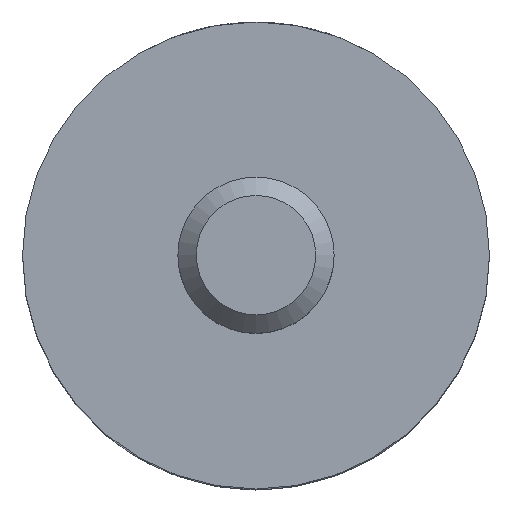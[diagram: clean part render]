
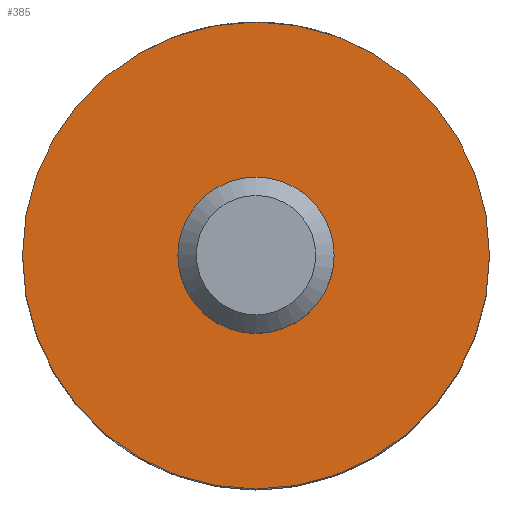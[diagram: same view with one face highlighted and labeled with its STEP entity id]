
A CAD part, top view. The second image highlights one B-rep face of the part: STEP entity #385.
In plain terms, the highlighted planar face has unit normal (0, 0, 1).
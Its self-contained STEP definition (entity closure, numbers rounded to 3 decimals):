
#335=FACE_BOUND('',#488,.T.);
#336=FACE_BOUND('',#489,.T.);
#350=CIRCLE('',#1260,9.488);
#351=CIRCLE('',#1262,2.375);
#385=ADVANCED_FACE('',(#335,#336),#407,.T.);
#407=PLANE('',#1264);
#488=EDGE_LOOP('',(#784));
#489=EDGE_LOOP('',(#785));
#784=ORIENTED_EDGE('',*,*,#1080,.F.);
#785=ORIENTED_EDGE('',*,*,#1081,.F.);
#932=VERTEX_POINT('',#2158);
#933=VERTEX_POINT('',#2161);
#1080=EDGE_CURVE('',#932,#932,#350,.T.);
#1081=EDGE_CURVE('',#933,#933,#351,.T.);
#1260=AXIS2_PLACEMENT_3D('',#2157,#1355,#1356);
#1262=AXIS2_PLACEMENT_3D('',#2160,#1359,#1360);
#1264=AXIS2_PLACEMENT_3D('',#2163,#1363,#1364);
#1355=DIRECTION('',(0.,0.,-1.));
#1356=DIRECTION('',(-1.,0.,0.));
#1359=DIRECTION('',(0.,0.,1.));
#1360=DIRECTION('',(1.,0.,0.));
#1363=DIRECTION('',(0.,0.,1.));
#1364=DIRECTION('',(1.,0.,0.));
#2157=CARTESIAN_POINT('',(0.,0.,0.));
#2158=CARTESIAN_POINT('',(-9.488,0.,0.));
#2160=CARTESIAN_POINT('',(0.,0.,0.));
#2161=CARTESIAN_POINT('',(2.375,0.,0.));
#2163=CARTESIAN_POINT('',(0.,0.,0.));
